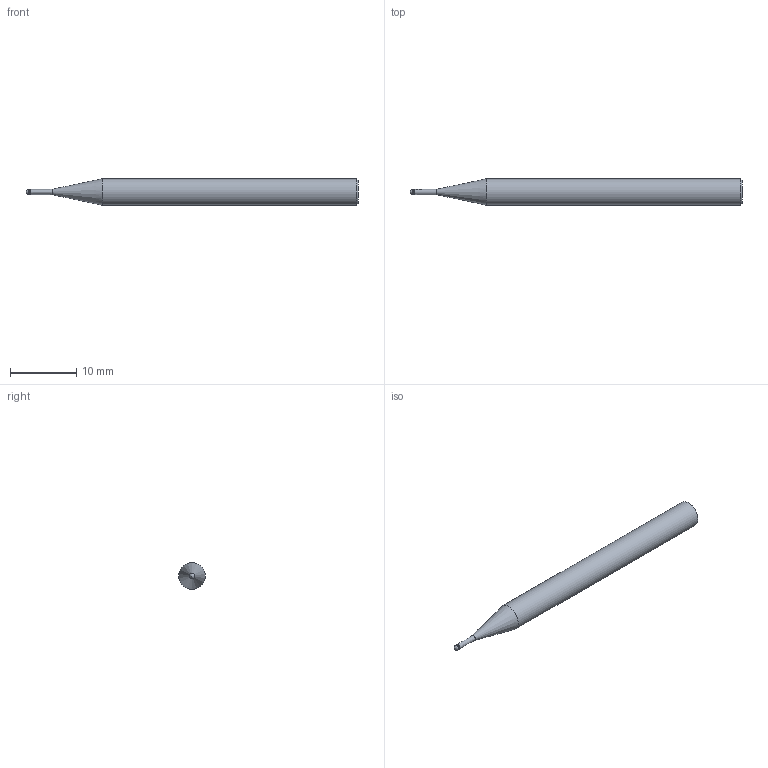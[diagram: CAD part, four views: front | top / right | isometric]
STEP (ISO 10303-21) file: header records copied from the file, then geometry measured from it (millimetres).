
FILE_DESCRIPTION(/* description */ (''),/* implementation_level */ '2;1');
FILE_NAME(/* name */ 'HGXPB2008-4-T0.4 0450.stp',/* time_stamp */ '2026-01-22T09:35:19+08:00',/* author */ (''),/* organization */ (''),/* preprocessor_version */ 'ST-DEVELOPER v16',/* originating_system */ 'SIEMENS PLM Software NX 10.0',/* authorisation */ '');
FILE_SCHEMA (('CONFIG_CONTROL_DESIGN'));
Length unit declared in the file: millimetre
Products named in the file (1): HGXPB2008-4-T0.4 0450_dxf
Bounding box: 50 x 4 x 4 mm (x, y, z)
Volume: 524.4 mm3; surface area: 563.5 mm2
Topology: 2 solids, 2 shells, 10 faces, 16 edges, 9 vertices
Faces by surface type: plane 3, cylinder 3, cone 3, bspline 1
Full cylindrical faces by diameter (mm): 0.76 x1, 0.8 x1, 4 x1
Entity records: 293 total; most frequent: CARTESIAN_POINT 55, DIRECTION 36, AXIS2_PLACEMENT_3D 18, EDGE_LOOP 16, ORIENTED_EDGE 16, FACE_BOUND 14, ADVANCED_FACE 10, VERTEX_POINT 9
